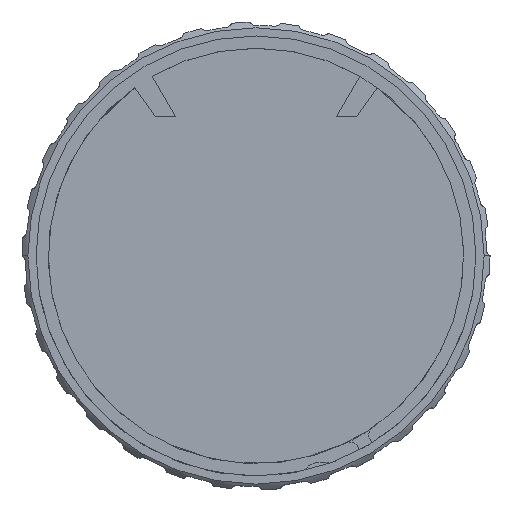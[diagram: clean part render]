
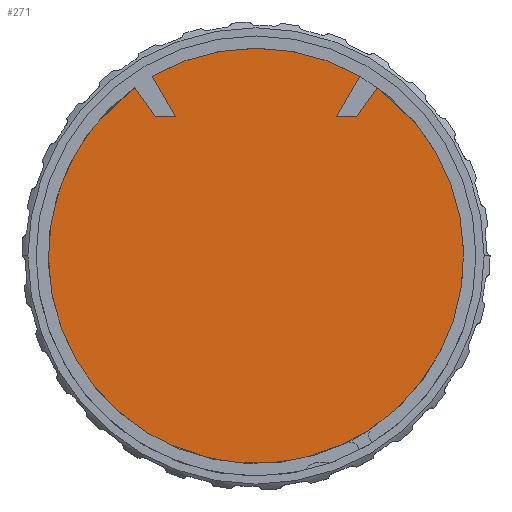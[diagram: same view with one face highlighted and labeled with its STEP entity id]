
A CAD part, top view. The second image highlights one B-rep face of the part: STEP entity #271.
In plain terms, the highlighted planar face has unit normal (0, 0, 1).
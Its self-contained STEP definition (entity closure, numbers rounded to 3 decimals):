
#271=ADVANCED_FACE('',(#774),#775,.F.);
#774=FACE_OUTER_BOUND('',#1340,.T.);
#775=PLANE('',#1341);
#1340=EDGE_LOOP('',(#3354,#3355,#3356,#3357,#3358,#3359,#3360,#3361,#3362,#3363,#3364,#3365));
#1341=AXIS2_PLACEMENT_3D('',#3366,#3367,#3368);
#3354=ORIENTED_EDGE('',*,*,#3766,.T.);
#3355=ORIENTED_EDGE('',*,*,#4375,.T.);
#3356=ORIENTED_EDGE('',*,*,#4376,.T.);
#3357=ORIENTED_EDGE('',*,*,#4377,.T.);
#3358=ORIENTED_EDGE('',*,*,#3772,.T.);
#3359=ORIENTED_EDGE('',*,*,#3778,.T.);
#3360=ORIENTED_EDGE('',*,*,#4378,.T.);
#3361=ORIENTED_EDGE('',*,*,#4379,.T.);
#3362=ORIENTED_EDGE('',*,*,#4380,.T.);
#3363=ORIENTED_EDGE('',*,*,#4381,.T.);
#3364=ORIENTED_EDGE('',*,*,#4382,.T.);
#3365=ORIENTED_EDGE('',*,*,#3780,.T.);
#3366=CARTESIAN_POINT('',(0.0,0.,18.15));
#3367=DIRECTION('',(0.0,0.0,-1.0));
#3368=DIRECTION('',(-1.0,0.0,0.0));
#3766=EDGE_CURVE('',#4656,#4653,#4657,.T.);
#3772=EDGE_CURVE('',#4662,#4666,#4668,.T.);
#3778=EDGE_CURVE('',#4666,#4677,#4680,.T.);
#3780=EDGE_CURVE('',#4682,#4656,#4683,.T.);
#4375=EDGE_CURVE('',#4653,#5663,#5664,.T.);
#4376=EDGE_CURVE('',#5663,#5665,#5666,.T.);
#4377=EDGE_CURVE('',#5665,#4662,#5667,.T.);
#4378=EDGE_CURVE('',#4677,#5668,#5669,.T.);
#4379=EDGE_CURVE('',#5668,#5670,#5671,.T.);
#4380=EDGE_CURVE('',#5670,#5672,#5673,.T.);
#4381=EDGE_CURVE('',#5672,#5674,#5675,.T.);
#4382=EDGE_CURVE('',#5674,#4682,#5676,.T.);
#4653=VERTEX_POINT('',#5877);
#4656=VERTEX_POINT('',#5881);
#4657=CIRCLE('',#5882,0.75);
#4662=VERTEX_POINT('',#5888);
#4666=VERTEX_POINT('',#5893);
#4668=CIRCLE('',#5896,0.75);
#4677=VERTEX_POINT('',#5907);
#4680=CIRCLE('',#5911,17.75);
#4682=VERTEX_POINT('',#5913);
#4683=CIRCLE('',#5914,17.75);
#5663=VERTEX_POINT('',#11871);
#5664=CIRCLE('',#11872,0.75);
#5665=VERTEX_POINT('',#11873);
#5666=CIRCLE('',#11874,18.8);
#5667=CIRCLE('',#11875,0.75);
#5668=VERTEX_POINT('',#11876);
#5669=CIRCLE('',#11877,17.75);
#5670=VERTEX_POINT('',#11878);
#5671=LINE('',#11879,#11880);
#5672=VERTEX_POINT('',#11881);
#5673=LINE('',#11882,#11883);
#5674=VERTEX_POINT('',#11884);
#5675=LINE('',#11885,#11886);
#5676=CIRCLE('',#11887,17.75);
#5877=CARTESIAN_POINT('',(-9.745,-15.679,18.15));
#5881=CARTESIAN_POINT('',(-9.973,-14.683,18.15));
#5882=AXIS2_PLACEMENT_3D('',#12132,#12133,#12134);
#5888=CARTESIAN_POINT('',(-8.706,-16.279,18.15));
#5893=CARTESIAN_POINT('',(-7.73,-15.979,18.15));
#5896=AXIS2_PLACEMENT_3D('',#12144,#12145,#12146);
#5907=CARTESIAN_POINT('',(15.372,8.875,18.15));
#5911=AXIS2_PLACEMENT_3D('',#12156,#12157,#12158);
#5913=CARTESIAN_POINT('',(-15.372,-8.875,18.15));
#5914=AXIS2_PLACEMENT_3D('',#12162,#12163,#12164);
#11871=CARTESIAN_POINT('',(-9.983,-15.931,18.15));
#11872=AXIS2_PLACEMENT_3D('',#12829,#12830,#12831);
#11873=CARTESIAN_POINT('',(-8.805,-16.611,18.15));
#11874=AXIS2_PLACEMENT_3D('',#12832,#12833,#12834);
#11875=AXIS2_PLACEMENT_3D('',#12835,#12836,#12837);
#11876=CARTESIAN_POINT('',(10.388,14.393,18.15));
#11877=AXIS2_PLACEMENT_3D('',#12838,#12839,#12840);
#11878=CARTESIAN_POINT('',(8.595,11.908,18.15));
#11879=CARTESIAN_POINT('',(4.746,6.575,18.15));
#11880=VECTOR('',#12841,1.0);
#11881=CARTESIAN_POINT('',(6.875,11.908,18.15));
#11882=CARTESIAN_POINT('',(3.867,11.908,18.15));
#11883=VECTOR('',#12842,1.0);
#11884=CARTESIAN_POINT('',(8.875,15.372,18.15));
#11885=CARTESIAN_POINT('',(3.938,6.82,18.15));
#11886=VECTOR('',#12843,1.0);
#11887=AXIS2_PLACEMENT_3D('',#12844,#12845,#12846);
#12132=CARTESIAN_POINT('',(-10.394,-15.304,18.15));
#12133=DIRECTION('',(0.0,0.0,-1.0));
#12134=DIRECTION('',(0.866,-0.5,0.0));
#12144=CARTESIAN_POINT('',(-8.056,-16.654,18.15));
#12145=DIRECTION('',(0.0,0.0,-1.0));
#12146=DIRECTION('',(0.866,-0.5,0.0));
#12156=CARTESIAN_POINT('',(0.0,0.,18.15));
#12157=DIRECTION('',(0.0,-0.0,1.0));
#12158=DIRECTION('',(0.866,0.5,0.0));
#12162=CARTESIAN_POINT('',(0.0,0.,18.15));
#12163=DIRECTION('',(0.0,-0.0,1.0));
#12164=DIRECTION('',(0.866,0.5,0.0));
#12829=CARTESIAN_POINT('',(-10.394,-15.304,18.15));
#12830=DIRECTION('',(0.0,0.0,-1.0));
#12831=DIRECTION('',(0.866,-0.5,0.0));
#12832=CARTESIAN_POINT('',(0.0,0.,18.15));
#12833=DIRECTION('',(0.0,0.0,1.0));
#12834=DIRECTION('',(-1.0,0.0,0.0));
#12835=CARTESIAN_POINT('',(-8.056,-16.654,18.15));
#12836=DIRECTION('',(0.0,0.0,-1.0));
#12837=DIRECTION('',(0.866,-0.5,0.0));
#12838=CARTESIAN_POINT('',(0.0,0.,18.15));
#12839=DIRECTION('',(0.0,-0.0,1.0));
#12840=DIRECTION('',(0.866,0.5,0.0));
#12841=DIRECTION('',(-0.585,-0.811,0.0));
#12842=DIRECTION('',(-1.0,0.,0.0));
#12843=DIRECTION('',(0.5,0.866,-0.0));
#12844=CARTESIAN_POINT('',(0.0,0.,18.15));
#12845=DIRECTION('',(0.0,-0.0,1.0));
#12846=DIRECTION('',(0.866,0.5,0.0));
